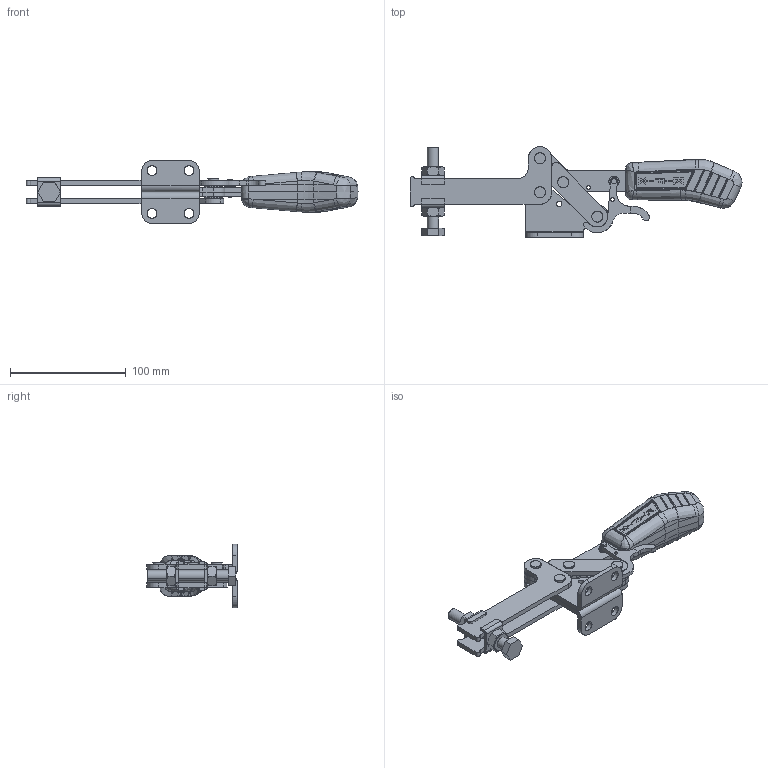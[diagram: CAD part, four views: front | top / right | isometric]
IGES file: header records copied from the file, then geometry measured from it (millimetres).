
Start section: SolidWorks IGES file using analytic representation for surfaces
Global section: file name: C:\Projetos\Grampos\KF-531\KF-531 DL TR\KF-531 DL TR.IGS; native system: SolidWorks 2013; preprocessor: SolidWorks 2013; author: Ricardo; date: 140818.113953; units: millimetre
Bounding box: 287.19 x 78.19 x 55 mm (x, y, z)
Surface area: 84832 mm2 (no closed solid volume)
Topology: 0 solids, 0 shells, 874 faces, 10696 edges, 10665 vertices
Faces by surface type: bspline 451, revolution 423
